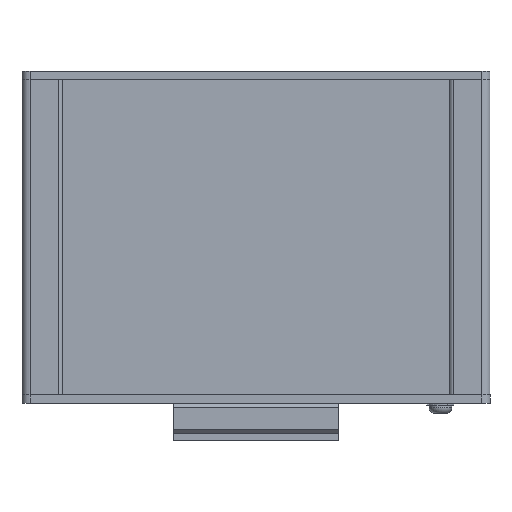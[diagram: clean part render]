
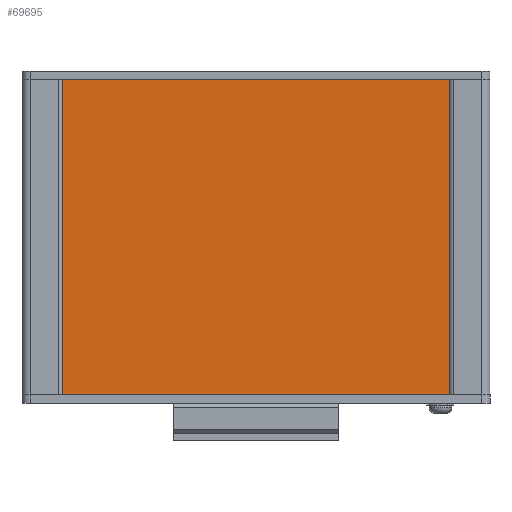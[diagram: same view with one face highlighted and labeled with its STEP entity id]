
A CAD part, front view. The second image highlights one B-rep face of the part: STEP entity #69695.
In plain terms, the highlighted planar face has unit normal (0, -1, 0).
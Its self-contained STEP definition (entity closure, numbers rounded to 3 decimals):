
#2247 = ORIENTED_EDGE ( 'NONE', *, *, #89277, .F. ) ;
#2343 = EDGE_CURVE ( 'NONE', #178766, #158954, #10702, .T. ) ;
#10702 = LINE ( 'NONE', #71277, #18824 ) ;
#11531 = ORIENTED_EDGE ( 'NONE', *, *, #38431, .F. ) ;
#12643 = VERTEX_POINT ( 'NONE', #73556 ) ;
#18794 = VECTOR ( 'NONE', #172322, 1000. ) ;
#18824 = VECTOR ( 'NONE', #99672, 1000. ) ;
#30780 = EDGE_CURVE ( 'NONE', #158954, #80188, #185055, .T. ) ;
#38431 = EDGE_CURVE ( 'NONE', #12643, #80188, #56875, .T. ) ;
#49804 = ORIENTED_EDGE ( 'NONE', *, *, #30780, .T. ) ;
#56875 = LINE ( 'NONE', #72509, #89102 ) ;
#60349 = LINE ( 'NONE', #119987, #166557 ) ;
#69695 = ADVANCED_FACE ( 'NONE', ( #186565 ), #88698, .F. ) ;
#71277 = CARTESIAN_POINT ( 'NONE',  ( -46.8, -20., 76.3 ) ) ;
#72509 = CARTESIAN_POINT ( 'NONE',  ( 46.8, -20., 76.3 ) ) ;
#73048 = CARTESIAN_POINT ( 'NONE',  ( -46.8, -20., 76.3 ) ) ;
#73556 = CARTESIAN_POINT ( 'NONE',  ( 46.8, -20., 76.3 ) ) ;
#74691 = CARTESIAN_POINT ( 'NONE',  ( -46.8, -20., 0. ) ) ;
#80188 = VERTEX_POINT ( 'NONE', #82419 ) ;
#82419 = CARTESIAN_POINT ( 'NONE',  ( 46.8, -20., 0. ) ) ;
#83319 = CARTESIAN_POINT ( 'NONE',  ( -46.8, -20., 0. ) ) ;
#87718 = DIRECTION ( 'NONE',  ( 0., 0., 1. ) ) ;
#88698 = PLANE ( 'NONE',  #183836 ) ;
#89102 = VECTOR ( 'NONE', #158598, 1000. ) ;
#89277 = EDGE_CURVE ( 'NONE', #178766, #12643, #60349, .T. ) ;
#90654 = DIRECTION ( 'NONE',  ( 1., 0., 0. ) ) ;
#99672 = DIRECTION ( 'NONE',  ( 0., 0., -1. ) ) ;
#102193 = ORIENTED_EDGE ( 'NONE', *, *, #2343, .T. ) ;
#107624 = CARTESIAN_POINT ( 'NONE',  ( -46.8, -20., 76.3 ) ) ;
#119987 = CARTESIAN_POINT ( 'NONE',  ( -46.8, -20., 76.3 ) ) ;
#132668 = DIRECTION ( 'NONE',  ( 0., 1., 0. ) ) ;
#132965 = EDGE_LOOP ( 'NONE', ( #49804, #11531, #2247, #102193 ) ) ;
#158598 = DIRECTION ( 'NONE',  ( 0., 0., -1. ) ) ;
#158954 = VERTEX_POINT ( 'NONE', #74691 ) ;
#166557 = VECTOR ( 'NONE', #90654, 1000. ) ;
#172322 = DIRECTION ( 'NONE',  ( 1., 0., 0. ) ) ;
#178766 = VERTEX_POINT ( 'NONE', #107624 ) ;
#183836 = AXIS2_PLACEMENT_3D ( 'NONE', #73048, #132668, #87718 ) ;
#185055 = LINE ( 'NONE', #83319, #18794 ) ;
#186565 = FACE_OUTER_BOUND ( 'NONE', #132965, .T. ) ;
